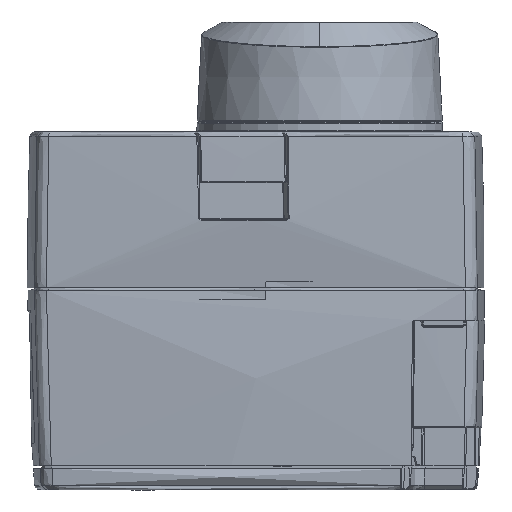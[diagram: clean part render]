
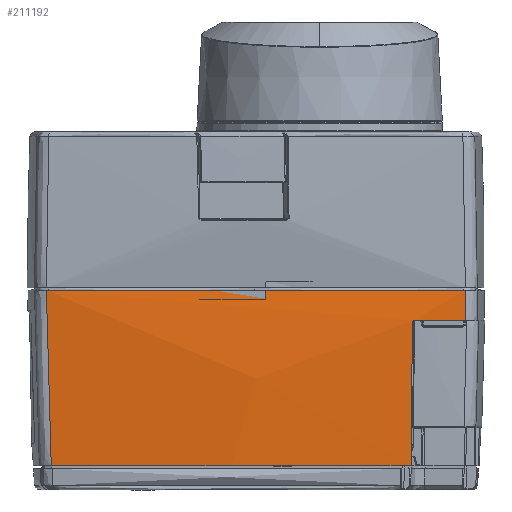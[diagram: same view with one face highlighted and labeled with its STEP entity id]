
A CAD part, front view. The second image highlights one B-rep face of the part: STEP entity #211192.
In plain terms, the highlighted free-form (B-spline) face has degree [2, 2] with [3, 3] control points.
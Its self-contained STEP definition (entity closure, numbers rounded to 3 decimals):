
#263 = CARTESIAN_POINT ( 'NONE',  ( -42.77, 0.046, -0.45 ) ) ;
#5708 = VERTEX_POINT ( 'NONE', #149258 ) ;
#11747 = CARTESIAN_POINT ( 'NONE',  ( -39.964, -33.148, -7.048 ) ) ;
#25568 = ORIENTED_EDGE ( 'NONE', *, *, #214884, .T. ) ;
#27427 = VERTEX_POINT ( 'NONE', #209642 ) ;
#30602 = CARTESIAN_POINT ( 'NONE',  ( -107.521, -83.686, 244.587 ) ) ;
#40056 = CARTESIAN_POINT ( 'NONE',  ( -39.964, -33.148, -7.048 ) ) ;
#47852 = ORIENTED_EDGE ( 'NONE', *, *, #170415, .T. ) ;
#48189 = CARTESIAN_POINT ( 'NONE',  ( -39.734, -37.016, -6.85 ) ) ;
#51204 = EDGE_CURVE ( 'NONE', #103373, #27427, #155249, .T. ) ;
#51476 = EDGE_LOOP ( 'NONE', ( #25568, #331871, #47852, #130839, #322249, #268958, #66177 ) ) ;
#56001 = CARTESIAN_POINT ( 'NONE',  ( -19.716, 75.635, -142.63 ) ) ;
#66047 = VERTEX_POINT ( 'NONE', #295063 ) ;
#66177 = ORIENTED_EDGE ( 'NONE', *, *, #166624, .T. ) ;
#73167 = EDGE_CURVE ( 'NONE', #5708, #66047, #278927, .T. ) ;
#76301 = B_SPLINE_CURVE_WITH_KNOTS ( 'NONE', 3,
 ( #225738, #273196, #276735, #302185, #113249, #111461 ),
 .UNSPECIFIED., .F., .F.,
 ( 4, 2, 4 ),
 ( 0., 0., 0. ),
 .UNSPECIFIED. ) ;
#84909 = CARTESIAN_POINT ( 'NONE',  ( -108.75, 75.635, 244.587 ) ) ;
#85413 = CARTESIAN_POINT ( 'NONE',  ( -39.251, 44.474, -0.45 ) ) ;
#100670 = CARTESIAN_POINT ( 'NONE',  ( -39.477, -40.682, -6.85 ) ) ;
#103373 = VERTEX_POINT ( 'NONE', #144589 ) ;
#111461 = CARTESIAN_POINT ( 'NONE',  ( -39.954, -33.348, -6.85 ) ) ;
#113249 = CARTESIAN_POINT ( 'NONE',  ( -39.958, -33.295, -6.85 ) ) ;
#118297 = CARTESIAN_POINT ( 'NONE',  ( -38.902, -32.88, -37.7 ) ) ;
#120188 = CARTESIAN_POINT ( 'NONE',  ( -38.897, 44.12, -25.304 ) ) ;
#122230 = CARTESIAN_POINT ( 'NONE',  ( -39.219, -44.379, -0.45 ) ) ;
#126479 = B_SPLINE_CURVE_WITH_KNOTS ( 'NONE', 3,
 ( #287533, #205781, #260265, #122230 ),
 .UNSPECIFIED., .F., .F.,
 ( 4, 4 ),
 ( 0., 1. ),
 .UNSPECIFIED. ) ;
#130839 = ORIENTED_EDGE ( 'NONE', *, *, #73167, .T. ) ;
#141098 = FACE_OUTER_BOUND ( 'NONE', #51476, .T. ) ;
#143390 = CARTESIAN_POINT ( 'NONE',  ( -39.502, -32.969, -27.491 ) ) ;
#144589 = CARTESIAN_POINT ( 'NONE',  ( -39.219, -44.379, -0.45 ) ) ;
#144672 = CARTESIAN_POINT ( 'NONE',  ( -18.487, -83.686, -142.63 ) ) ;
#146453 = CARTESIAN_POINT ( 'NONE',  ( -30.55, -4.114, -142.63 ) ) ;
#146516 = B_SPLINE_CURVE_WITH_KNOTS ( 'NONE', 3,
 ( #150569, #143390, #285059, #40056 ),
 .UNSPECIFIED., .F., .F.,
 ( 4, 4 ),
 ( 0., 0.031 ),
 .UNSPECIFIED. ) ;
#147764 =( BOUNDED_SURFACE ( )  B_SPLINE_SURFACE ( 2, 2, ( 
 ( #304670, #171886, #221024 ),
 ( #84909, #251889, #30602 ),
 ( #56001, #146453, #144672 ) ),
 .UNSPECIFIED., .F., .F., .F. ) 
 B_SPLINE_SURFACE_WITH_KNOTS ( ( 3, 3 ),
 ( 3, 3 ),
 ( -0.89, 0.226 ),
 ( 0.103, 0.389 ),
 .UNSPECIFIED. ) 
 GEOMETRIC_REPRESENTATION_ITEM ( )  RATIONAL_B_SPLINE_SURFACE ( (
 ( 1., 0.99, 1.),
 ( 0.848, 0.84, 0.848),
 ( 1., 0.99, 1.) ) ) 
 REPRESENTATION_ITEM ( '' )  SURFACE ( )  );
#149258 = CARTESIAN_POINT ( 'NONE',  ( -38.215, 43.436, -37.7 ) ) ;
#150569 = CARTESIAN_POINT ( 'NONE',  ( -38.902, -32.88, -37.7 ) ) ;
#155249 =( BOUNDED_CURVE ( )  B_SPLINE_CURVE ( 2, ( #336026, #263, #85413 ),
 .UNSPECIFIED., .F., .F. ) 
 B_SPLINE_CURVE_WITH_KNOTS ( ( 3, 3 ),
 ( 0., 0.089 ),
 .UNSPECIFIED. ) 
 CURVE ( )  GEOMETRIC_REPRESENTATION_ITEM ( )  RATIONAL_B_SPLINE_CURVE ( ( 0.947, 0.944, 0.947 ) ) 
 REPRESENTATION_ITEM ( '' )  );
#166624 = EDGE_CURVE ( 'NONE', #339446, #308915, #204480, .T. ) ;
#170415 = EDGE_CURVE ( 'NONE', #27427, #5708, #311495, .T. ) ;
#171886 = CARTESIAN_POINT ( 'NONE',  ( 189.184, -4.114, 494.64 ) ) ;
#196489 = CARTESIAN_POINT ( 'NONE',  ( -39.198, 30.725, -37.7 ) ) ;
#200205 = CARTESIAN_POINT ( 'NONE',  ( -39.251, 44.474, -0.45 ) ) ;
#203659 = CARTESIAN_POINT ( 'NONE',  ( -38.215, 43.436, -37.7 ) ) ;
#203777 = CARTESIAN_POINT ( 'NONE',  ( -38.215, 43.436, -37.7 ) ) ;
#204480 = B_SPLINE_CURVE_WITH_KNOTS ( 'NONE', 3,
 ( #300314, #48189, #100670, #213161 ),
 .UNSPECIFIED., .F., .F.,
 ( 4, 4 ),
 ( 0., 1. ),
 .UNSPECIFIED. ) ;
#205781 = CARTESIAN_POINT ( 'NONE',  ( -39.206, -44.366, -4.717 ) ) ;
#209642 = CARTESIAN_POINT ( 'NONE',  ( -39.251, 44.474, -0.45 ) ) ;
#211192 = ADVANCED_FACE ( 'NONE', ( #141098 ), #147764, .T. ) ;
#213161 = CARTESIAN_POINT ( 'NONE',  ( -39.185, -44.345, -6.85 ) ) ;
#214884 = EDGE_CURVE ( 'NONE', #308915, #103373, #126479, .T. ) ;
#221024 = CARTESIAN_POINT ( 'NONE',  ( 201.247, -83.686, 494.64 ) ) ;
#225738 = CARTESIAN_POINT ( 'NONE',  ( -39.964, -33.148, -7.048 ) ) ;
#240277 = VERTEX_POINT ( 'NONE', #11747 ) ;
#251889 = CARTESIAN_POINT ( 'NONE',  ( -119.584, -4.114, 244.587 ) ) ;
#260265 = CARTESIAN_POINT ( 'NONE',  ( -39.217, -44.378, -2.583 ) ) ;
#262923 = CARTESIAN_POINT ( 'NONE',  ( -39.954, -33.348, -6.85 ) ) ;
#266058 = CARTESIAN_POINT ( 'NONE',  ( -39.185, -44.345, -6.85 ) ) ;
#268958 = ORIENTED_EDGE ( 'NONE', *, *, #338914, .T. ) ;
#273196 = CARTESIAN_POINT ( 'NONE',  ( -39.965, -33.148, -6.996 ) ) ;
#276735 = CARTESIAN_POINT ( 'NONE',  ( -39.964, -33.17, -6.944 ) ) ;
#278927 = B_SPLINE_CURVE_WITH_KNOTS ( 'NONE', 3,
 ( #203659, #196489, #314437, #280069, #118297 ),
 .UNSPECIFIED., .F., .F.,
 ( 4, 1, 4 ),
 ( 0., 0.038, 0.076 ),
 .UNSPECIFIED. ) ;
#280069 = CARTESIAN_POINT ( 'NONE',  ( -39.656, -20.153, -37.7 ) ) ;
#285059 = CARTESIAN_POINT ( 'NONE',  ( -39.856, -33.058, -17.274 ) ) ;
#287533 = CARTESIAN_POINT ( 'NONE',  ( -39.185, -44.345, -6.85 ) ) ;
#289101 = CARTESIAN_POINT ( 'NONE',  ( -39.243, 44.466, -12.876 ) ) ;
#295063 = CARTESIAN_POINT ( 'NONE',  ( -38.902, -32.88, -37.7 ) ) ;
#299582 = EDGE_CURVE ( 'NONE', #66047, #240277, #146516, .T. ) ;
#300314 = CARTESIAN_POINT ( 'NONE',  ( -39.954, -33.348, -6.85 ) ) ;
#302185 = CARTESIAN_POINT ( 'NONE',  ( -39.96, -33.244, -6.871 ) ) ;
#304670 = CARTESIAN_POINT ( 'NONE',  ( 200.018, 75.635, 494.64 ) ) ;
#308915 = VERTEX_POINT ( 'NONE', #266058 ) ;
#311495 = B_SPLINE_CURVE_WITH_KNOTS ( 'NONE', 3,
 ( #200205, #289101, #120188, #203777 ),
 .UNSPECIFIED., .F., .F.,
 ( 4, 4 ),
 ( 0., 1. ),
 .UNSPECIFIED. ) ;
#314437 = CARTESIAN_POINT ( 'NONE',  ( -40.293, 5.294, -37.7 ) ) ;
#322249 = ORIENTED_EDGE ( 'NONE', *, *, #299582, .T. ) ;
#331871 = ORIENTED_EDGE ( 'NONE', *, *, #51204, .T. ) ;
#336026 = CARTESIAN_POINT ( 'NONE',  ( -39.219, -44.379, -0.45 ) ) ;
#338914 = EDGE_CURVE ( 'NONE', #240277, #339446, #76301, .T. ) ;
#339446 = VERTEX_POINT ( 'NONE', #262923 ) ;
